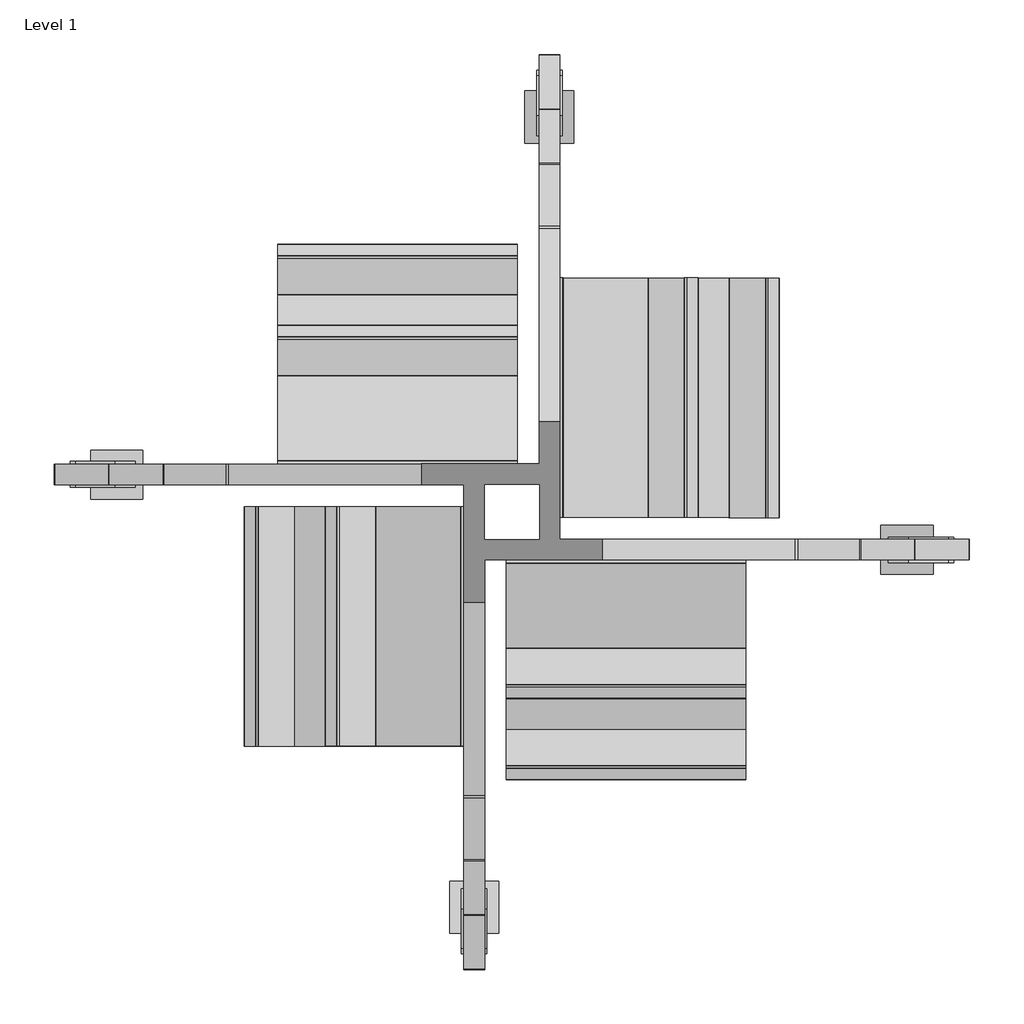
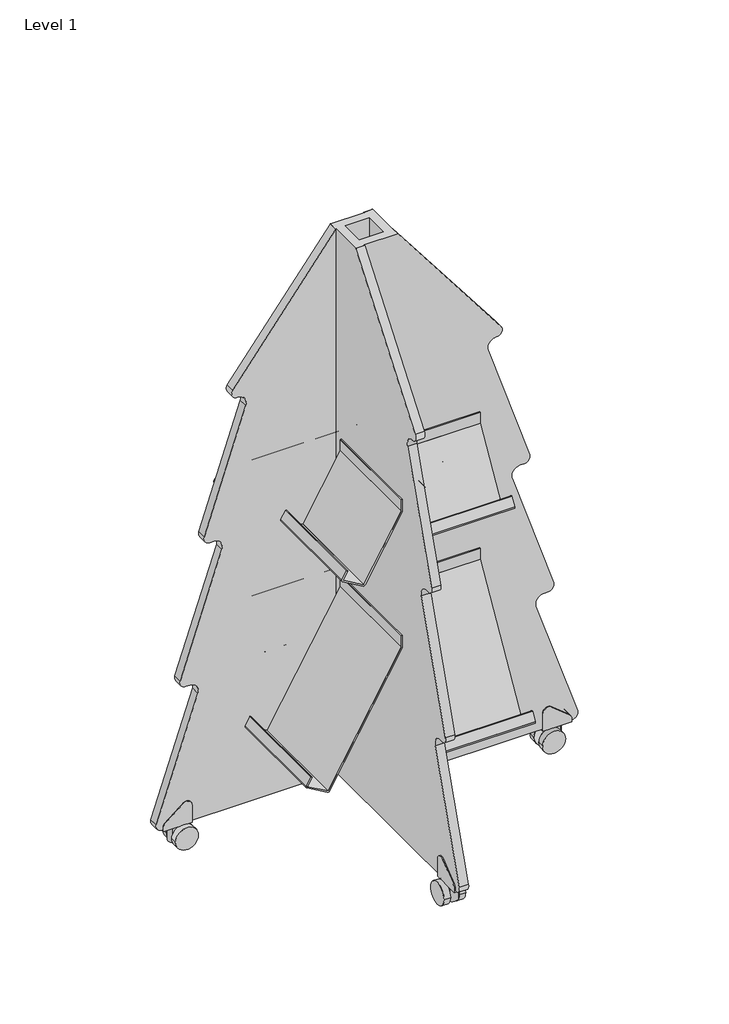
# One storey: 1 furniture element.
"""IFC4 building model written with IfcOpenShell, lengths in millimetres."""

from ifc_helpers import new_model, si_unit, origin, place, context, project, spatial, transform, mapped, element, save
from components import bk_library_pine_bk_library_pine_50db73bd, bk_library_pine_bk_library_pine_3ca1e0d4

model = new_model("IFC4")

# Units and contexts
model_context = context("Model", 3, world=origin())
ifc_project = project(units=[si_unit("LENGTHUNIT", "METRE", prefix="MILLI")], contexts=[model_context])

# Site, building, storey
site = spatial("IfcSite", under=ifc_project)
building = spatial("IfcBuilding", under=site)
storey = spatial("IfcBuildingStorey", under=building, Name="Level 1", Elevation=0.0)

# Furniture
placement = place(None, origin())
bk_library_pine_bk_library_pine_shape = bk_library_pine_bk_library_pine_50db73bd(model_context)
bk_library_pine_bk_library_pine_2_shape = bk_library_pine_bk_library_pine_3ca1e0d4(model_context)
element("IfcFurniture", 1, ObjectType="BK Library - Pine : BK Library - Pine", at=placement, inside=storey, context=model_context, shape_type="MappedRepresentation", body=[
    mapped(bk_library_pine_bk_library_pine_shape, transform((-3488.9176536, 2197.9079464, 0.0), x_axis=(1.0, 0.0, 0.0), y_axis=(0.0, 1.0, 0.0), z_axis=(0.0, 0.0, 1.0))),
    mapped(bk_library_pine_bk_library_pine_2_shape, transform((-3488.9176536, 2197.9079464, 0.0), x_axis=(1.0, 0.0, 0.0), y_axis=(0.0, 1.0, 0.0), z_axis=(0.0, 0.0, 1.0))),
])

save(model, "model.ifc")
